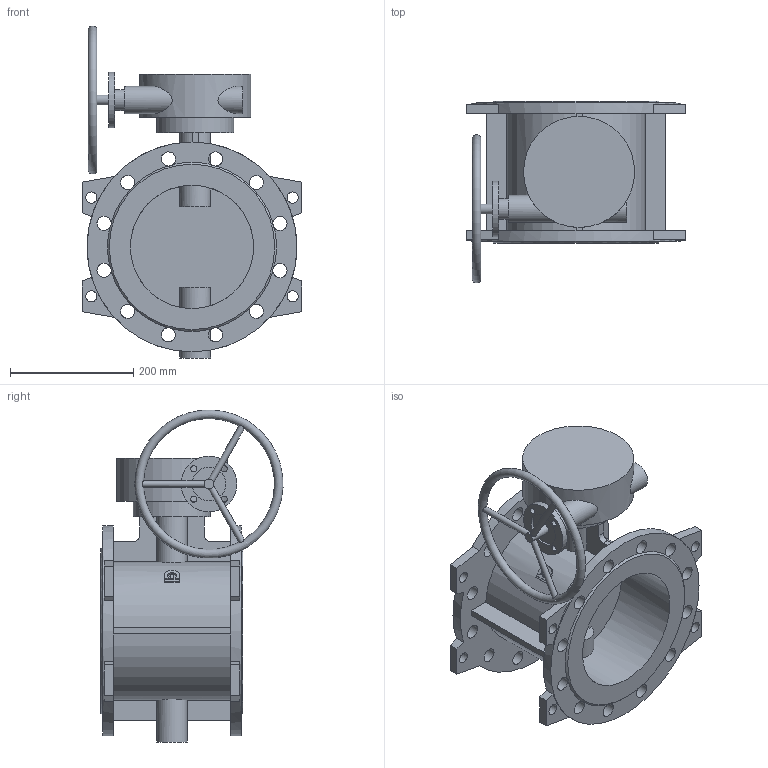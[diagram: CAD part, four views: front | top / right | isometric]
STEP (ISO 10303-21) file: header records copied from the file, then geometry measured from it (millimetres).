
FILE_DESCRIPTION(('STEP AP203'), '1');
FILE_NAME('Çàòâîð 023F.Z DN200 PN16_ìàõ', '', ('UNSPECIFIED'), ('UNSPECIFIED'), 'ASCON STEP Converter 1.6', 'ASCON Math Kernel', '');
FILE_SCHEMA(('CONFIG_CONTROL_DESIGN'));
Length unit declared in the file: millimetre
Bounding box: 356 x 294.89 x 537.93 mm (x, y, z)
Volume: 7588322.2 mm3; surface area: 861793 mm2
Topology: 1 solids, 1 shells, 170 faces, 503 edges, 335 vertices
Faces by surface type: plane 90, cylinder 77, cone 2, torus 1
Full cylindrical faces by diameter (mm): 8.3 x4, 10 x7, 12 x4, 16 x1, 18 x8, 23 x24, 34 x1, 44 x1, 50 x1, 55 x1, 90 x1, 125 x1, 180 x1, 200 x2, 340 x2
Entity records: 10671 total; most frequent: CARTESIAN_POINT 4727, DIRECTION 939, ORIENTED_EDGE 878, EDGE_CURVE 439, AXIS2_PLACEMENT_3D 379, VERTEX_POINT 334, EDGE_LOOP 309, FACE_BOUND 218
